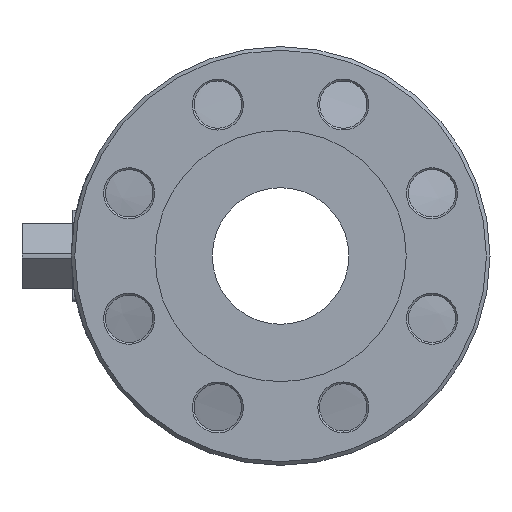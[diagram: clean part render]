
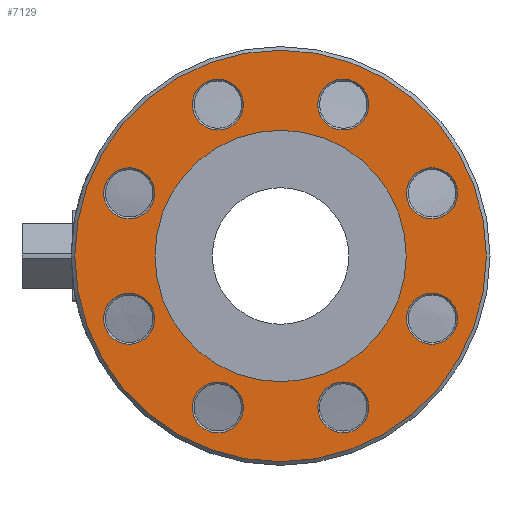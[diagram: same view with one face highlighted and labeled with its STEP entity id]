
A CAD part, left-side view. The second image highlights one B-rep face of the part: STEP entity #7129.
In plain terms, the highlighted planar face has unit normal (-1, 0, 0).
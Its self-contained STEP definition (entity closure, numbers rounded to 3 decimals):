
#6990=CARTESIAN_POINT('',(-109.,24.542,-93.049));
#6991=VERTEX_POINT('',#6990);
#6992=CARTESIAN_POINT('',(-109.,34.442,-83.149));
#6993=DIRECTION('',(-1.0,0.0,0.0));
#6994=DIRECTION('',(0.0,0.707,0.707));
#6995=AXIS2_PLACEMENT_3D('',#6992,#6993,#6994);
#6996=CIRCLE('',#6995,14.);
#6997=EDGE_CURVE('',#6991,#6991,#6996,.T.);
#7022=CARTESIAN_POINT('',(-109.,-91.,0.0));
#7023=DIRECTION('',(-1.0,0.0,0.0));
#7024=DIRECTION('',(0.0,0.0,1.0));
#7025=AXIS2_PLACEMENT_3D('',#7022,#7023,#7024);
#7026=PLANE('',#7025);
#7027=CARTESIAN_POINT('',(-109.,-113.,0.0));
#7028=VERTEX_POINT('',#7027);
#7029=CARTESIAN_POINT('',(-109.,0.0,0.0));
#7030=DIRECTION('',(1.0,0.0,0.0));
#7031=DIRECTION('',(0.0,-1.0,0.0));
#7032=AXIS2_PLACEMENT_3D('',#7029,#7030,#7031);
#7033=CIRCLE('',#7032,113.);
#7034=EDGE_CURVE('',#7028,#7028,#7033,.T.);
#7035=ORIENTED_EDGE('',*,*,#7034,.F.);
#7036=EDGE_LOOP('',(#7035));
#7037=FACE_OUTER_BOUND('',#7036,.T.);
#7038=CARTESIAN_POINT('',(-109.,-48.442,-83.149));
#7039=VERTEX_POINT('',#7038);
#7040=CARTESIAN_POINT('',(-109.,-34.442,-83.149));
#7041=DIRECTION('',(-1.0,0.0,0.0));
#7042=DIRECTION('',(0.0,1.0,0.0));
#7043=AXIS2_PLACEMENT_3D('',#7040,#7041,#7042);
#7044=CIRCLE('',#7043,14.);
#7045=EDGE_CURVE('',#7039,#7039,#7044,.T.);
#7046=ORIENTED_EDGE('',*,*,#7045,.F.);
#7047=EDGE_LOOP('',(#7046));
#7048=FACE_BOUND('',#7047,.T.);
#7049=CARTESIAN_POINT('',(-109.,-83.149,48.442));
#7050=VERTEX_POINT('',#7049);
#7051=CARTESIAN_POINT('',(-109.,-83.149,34.442));
#7052=DIRECTION('',(-1.0,0.0,0.0));
#7053=DIRECTION('',(0.0,0.0,-1.0));
#7054=AXIS2_PLACEMENT_3D('',#7051,#7052,#7053);
#7055=CIRCLE('',#7054,14.);
#7056=EDGE_CURVE('',#7050,#7050,#7055,.T.);
#7057=ORIENTED_EDGE('',*,*,#7056,.F.);
#7058=EDGE_LOOP('',(#7057));
#7059=FACE_BOUND('',#7058,.T.);
#7060=CARTESIAN_POINT('',(-109.,48.442,83.149));
#7061=VERTEX_POINT('',#7060);
#7062=CARTESIAN_POINT('',(-109.,34.442,83.149));
#7063=DIRECTION('',(-1.0,0.0,0.0));
#7064=DIRECTION('',(0.0,-1.0,0.0));
#7065=AXIS2_PLACEMENT_3D('',#7062,#7063,#7064);
#7066=CIRCLE('',#7065,14.);
#7067=EDGE_CURVE('',#7061,#7061,#7066,.T.);
#7068=ORIENTED_EDGE('',*,*,#7067,.F.);
#7069=EDGE_LOOP('',(#7068));
#7070=FACE_BOUND('',#7069,.T.);
#7071=CARTESIAN_POINT('',(-109.,83.149,-48.442));
#7072=VERTEX_POINT('',#7071);
#7073=CARTESIAN_POINT('',(-109.,83.149,-34.442));
#7074=DIRECTION('',(-1.0,0.0,0.0));
#7075=DIRECTION('',(0.0,0.0,1.0));
#7076=AXIS2_PLACEMENT_3D('',#7073,#7074,#7075);
#7077=CIRCLE('',#7076,14.);
#7078=EDGE_CURVE('',#7072,#7072,#7077,.T.);
#7079=ORIENTED_EDGE('',*,*,#7078,.F.);
#7080=EDGE_LOOP('',(#7079));
#7081=FACE_BOUND('',#7080,.T.);
#7082=CARTESIAN_POINT('',(-109.,-69.,0.0));
#7083=VERTEX_POINT('',#7082);
#7084=CARTESIAN_POINT('',(-109.,0.0,0.0));
#7085=DIRECTION('',(1.0,0.0,0.0));
#7086=DIRECTION('',(0.0,-1.0,0.0));
#7087=AXIS2_PLACEMENT_3D('',#7084,#7085,#7086);
#7088=CIRCLE('',#7087,69.);
#7089=EDGE_CURVE('',#7083,#7083,#7088,.T.);
#7090=ORIENTED_EDGE('',*,*,#7089,.T.);
#7091=EDGE_LOOP('',(#7090));
#7092=FACE_BOUND('',#7091,.T.);
#7093=CARTESIAN_POINT('',(-109.,93.049,24.542));
#7094=VERTEX_POINT('',#7093);
#7095=CARTESIAN_POINT('',(-109.,83.149,34.442));
#7096=DIRECTION('',(-1.0,0.0,0.0));
#7097=DIRECTION('',(0.0,-0.707,0.707));
#7098=AXIS2_PLACEMENT_3D('',#7095,#7096,#7097);
#7099=CIRCLE('',#7098,14.);
#7100=EDGE_CURVE('',#7094,#7094,#7099,.T.);
#7101=ORIENTED_EDGE('',*,*,#7100,.F.);
#7102=EDGE_LOOP('',(#7101));
#7103=FACE_BOUND('',#7102,.T.);
#7104=CARTESIAN_POINT('',(-109.,-24.542,93.049));
#7105=VERTEX_POINT('',#7104);
#7106=CARTESIAN_POINT('',(-109.,-34.442,83.149));
#7107=DIRECTION('',(-1.0,0.0,0.0));
#7108=DIRECTION('',(0.0,-0.707,-0.707));
#7109=AXIS2_PLACEMENT_3D('',#7106,#7107,#7108);
#7110=CIRCLE('',#7109,14.0);
#7111=EDGE_CURVE('',#7105,#7105,#7110,.T.);
#7112=ORIENTED_EDGE('',*,*,#7111,.F.);
#7113=EDGE_LOOP('',(#7112));
#7114=FACE_BOUND('',#7113,.T.);
#7115=CARTESIAN_POINT('',(-109.,-93.049,-24.542));
#7116=VERTEX_POINT('',#7115);
#7117=CARTESIAN_POINT('',(-109.,-83.149,-34.442));
#7118=DIRECTION('',(-1.0,0.0,0.0));
#7119=DIRECTION('',(0.0,0.707,-0.707));
#7120=AXIS2_PLACEMENT_3D('',#7117,#7118,#7119);
#7121=CIRCLE('',#7120,14.0);
#7122=EDGE_CURVE('',#7116,#7116,#7121,.T.);
#7123=ORIENTED_EDGE('',*,*,#7122,.F.);
#7124=EDGE_LOOP('',(#7123));
#7125=FACE_BOUND('',#7124,.T.);
#7126=ORIENTED_EDGE('',*,*,#6997,.F.);
#7127=EDGE_LOOP('',(#7126));
#7128=FACE_BOUND('',#7127,.T.);
#7129=ADVANCED_FACE('',(#7037,#7048,#7059,#7070,#7081,#7092,#7103,#7114,#7125,#7128),#7026,.T.);
